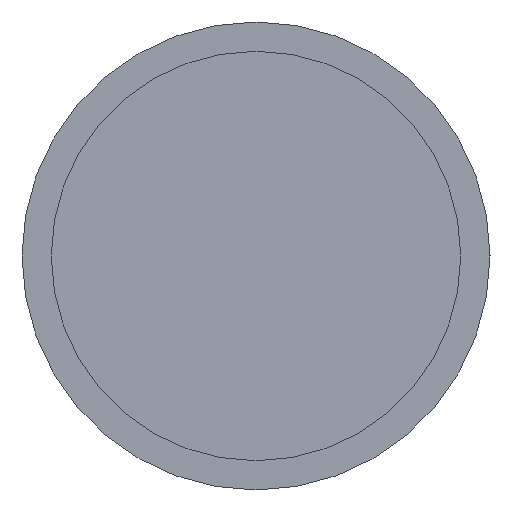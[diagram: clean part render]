
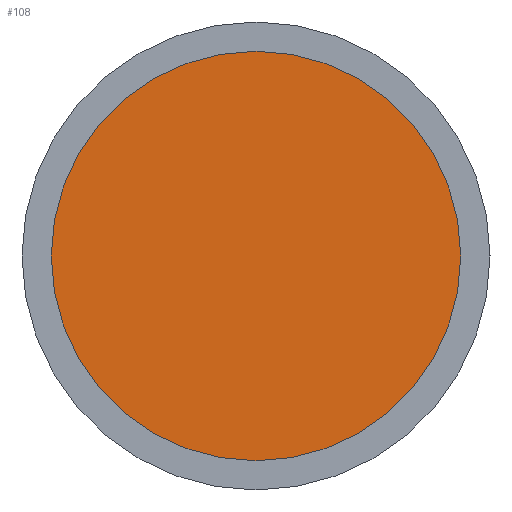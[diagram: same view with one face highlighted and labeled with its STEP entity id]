
A CAD part, left-side view. The second image highlights one B-rep face of the part: STEP entity #108.
In plain terms, the highlighted planar face has unit normal (-1, 0, 0).
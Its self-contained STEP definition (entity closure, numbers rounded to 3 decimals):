
#20=PLANE('',#143);
#26=FACE_OUTER_BOUND('',#35,.T.);
#35=EDGE_LOOP('',(#84));
#52=CIRCLE('',#141,3.5);
#60=VERTEX_POINT('',#200);
#69=EDGE_CURVE('',#60,#60,#52,.T.);
#84=ORIENTED_EDGE('',*,*,#69,.F.);
#108=ADVANCED_FACE('',(#26),#20,.F.);
#141=AXIS2_PLACEMENT_3D('',#202,#163,#164);
#143=AXIS2_PLACEMENT_3D('',#204,#167,#168);
#163=DIRECTION('center_axis',(1.,0.,0.));
#164=DIRECTION('ref_axis',(0.,1.,0.));
#167=DIRECTION('center_axis',(1.,0.,0.));
#168=DIRECTION('ref_axis',(0.,0.,-1.));
#200=CARTESIAN_POINT('',(0.,-3.5,0.));
#202=CARTESIAN_POINT('Origin',(0.,0.,0.));
#204=CARTESIAN_POINT('Origin',(0.,0.,0.));
